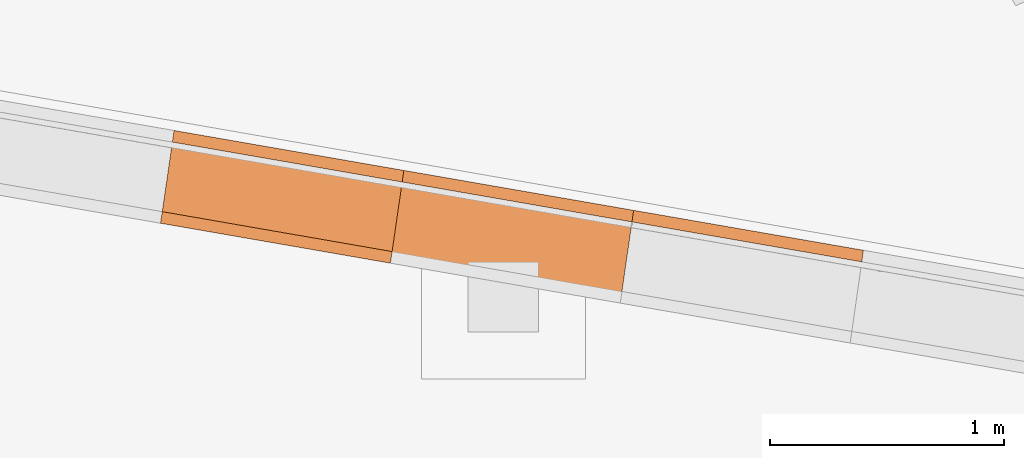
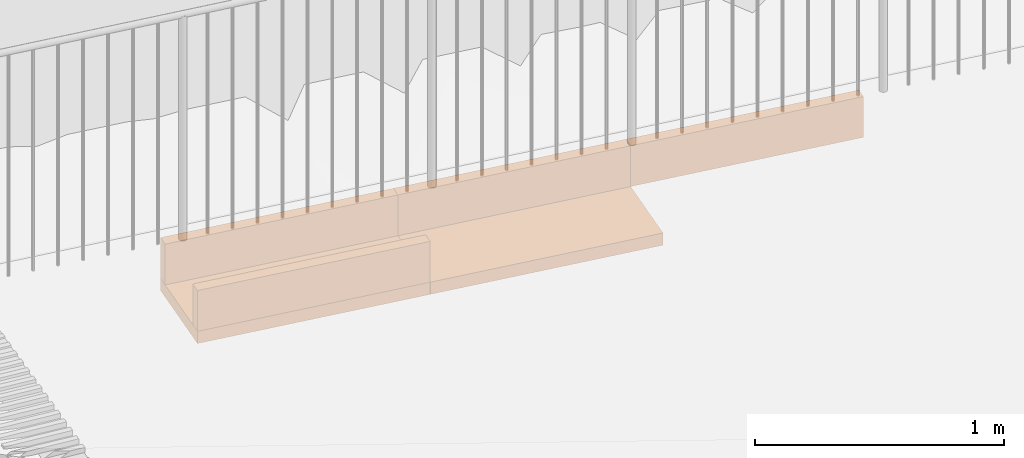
# Not in any storey, part 23 of 45: 6 proxies.
"""IFC4 model written with IfcOpenShell, lengths in metres."""

from ifc_helpers import new_model, si_unit, direction, frame, origin_with_axes, place, context, subcontext, project, spatial, polygons, material, element, save


model = new_model("IFC4")

# Units and contexts
model_context = context("Model", 3, precision=1e-05, world=origin_with_axes(), true_north=direction((0.0, 1.0)))
body_context = subcontext(model_context, "Body", "Model", "MODEL_VIEW")
ifc_project = project(units=[si_unit("VOLUMEUNIT", "CUBIC_METRE"), si_unit("LENGTHUNIT", "METRE"), si_unit("AREAUNIT", "SQUARE_METRE")], contexts=[model_context])

# Site
site_placement = place(None, origin_with_axes())
site = spatial("IfcSite", under=ifc_project, at=site_placement, Name="Lares · Rua das Mercês · artigo 4771")

# Proxies
ifc_material = material(Name="Caleiras · betão", Category="concrete")
proxy_1_placement = place(site_placement, frame((0.0, 0.0, 0.0), z_axis=(0.0, 0.0, 1.0), x_axis=(1.0, -1.03767253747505e-17, 0.0)))
element("IfcBuildingElementProxy", 1, at=proxy_1_placement, inside=site, material=ifc_material, Name="Acesso · canal lateral", ObjectType="Acesso · canal lateral", PredefinedType="USERDEFINED", context=body_context, shape_type="Tessellation", body=[
    polygons([(50.7869366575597, 10.7614061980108, 15.221), (50.8445409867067, 11.1572366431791, 15.221), (51.8255393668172, 10.9868287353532, 15.222), (51.7679347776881, 10.590998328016, 15.222), (50.7869366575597, 10.7614061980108, 15.281), (50.8445409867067, 11.1572366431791, 15.281), (51.8255393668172, 10.9868287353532, 15.282), (51.7679347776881, 10.590998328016, 15.282)], [[[4, 3, 2, 1]], [[5, 6, 7, 8]], [[1, 2, 6, 5]], [[2, 3, 7, 6]], [[3, 4, 8, 7]], [[4, 1, 5, 8]]]),
])
proxy_2_placement = place(site_placement, frame((0.0, 0.0, 0.0), z_axis=(0.0, 0.0, 1.0), x_axis=(1.0, -1.03767253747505e-17, 0.0)))
element("IfcBuildingElementProxy", 2, at=proxy_2_placement, inside=site, material=ifc_material, Name="Acesso · canal lateral", ObjectType="Acesso · canal lateral", PredefinedType="USERDEFINED", context=body_context, shape_type="Tessellation", body=[
    polygons([(50.7869366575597, 10.7614061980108, 15.281), (50.7941371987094, 10.8108850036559, 15.281), (51.7751353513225, 10.6404771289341, 15.282), (51.7679347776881, 10.590998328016, 15.282), (50.7869366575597, 10.7614061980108, 15.481), (50.7941371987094, 10.8108850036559, 15.481), (51.7751353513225, 10.6404771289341, 15.482), (51.7679347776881, 10.590998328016, 15.482)], [[[4, 3, 2, 1]], [[5, 6, 7, 8]], [[1, 2, 6, 5]], [[2, 3, 7, 6]], [[3, 4, 8, 7]], [[4, 1, 5, 8]]]),
])
proxy_3_placement = place(site_placement, frame((0.0, 0.0, 0.0), z_axis=(0.0, 0.0, 1.0), x_axis=(1.0, -1.03767253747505e-17, 0.0)))
element("IfcBuildingElementProxy", 3, at=proxy_3_placement, inside=site, material=ifc_material, Name="Acesso · canal lateral", ObjectType="Acesso · canal lateral", PredefinedType="USERDEFINED", context=body_context, shape_type="Tessellation", body=[
    polygons([(50.8373404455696, 11.1077578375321, 15.281), (50.8445409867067, 11.1572366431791, 15.281), (51.8255393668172, 10.9868287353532, 15.282), (51.8183387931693, 10.9373499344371, 15.282), (50.8373404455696, 11.1077578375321, 15.481), (50.8445409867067, 11.1572366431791, 15.481), (51.8255393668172, 10.9868287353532, 15.482), (51.8183387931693, 10.9373499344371, 15.482)], [[[4, 3, 2, 1]], [[5, 6, 7, 8]], [[1, 2, 6, 5]], [[2, 3, 7, 6]], [[3, 4, 8, 7]], [[4, 1, 5, 8]]]),
])
proxy_4_placement = place(site_placement, frame((0.0, 0.0, 0.0), z_axis=(0.0, 0.0, 1.0), x_axis=(1.0, -1.03767253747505e-17, 0.0)))
element("IfcBuildingElementProxy", 4, at=proxy_4_placement, inside=site, material=ifc_material, Name="Acesso · canal lateral", ObjectType="Acesso · canal lateral", PredefinedType="USERDEFINED", context=body_context, shape_type="Tessellation", body=[
    polygons([(51.7681638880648, 10.5909651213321, 15.222), (51.8253102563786, 10.9868619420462, 15.222), (52.8063153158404, 10.8164533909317, 15.223), (52.7491686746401, 10.4205566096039, 15.223), (51.7681638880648, 10.5909651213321, 15.282), (51.8253102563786, 10.9868619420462, 15.282), (52.8063153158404, 10.8164533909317, 15.283), (52.7491686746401, 10.4205566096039, 15.283)], [[[4, 3, 2, 1]], [[5, 6, 7, 8]], [[1, 2, 6, 5]], [[2, 3, 7, 6]], [[3, 4, 8, 7]], [[4, 1, 5, 8]]]),
])
proxy_5_placement = place(site_placement, frame((0.0, 0.0, 0.0), z_axis=(0.0, 0.0, 1.0), x_axis=(1.0, -1.03767253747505e-17, 0.0)))
element("IfcBuildingElementProxy", 5, at=proxy_5_placement, inside=site, material=ifc_material, Name="Acesso · canal lateral", ObjectType="Acesso · canal lateral", PredefinedType="USERDEFINED", context=body_context, shape_type="Tessellation", body=[
    polygons([(51.8181669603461, 10.937374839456, 15.282), (51.8253102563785, 10.9868619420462, 15.282), (52.8063153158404, 10.8164533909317, 15.283), (52.799171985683, 10.7669662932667, 15.283), (51.8181669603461, 10.937374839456, 15.482), (51.8253102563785, 10.9868619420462, 15.482), (52.8063153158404, 10.8164533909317, 15.483), (52.799171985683, 10.7669662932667, 15.483)], [[[4, 3, 2, 1]], [[5, 6, 7, 8]], [[1, 2, 6, 5]], [[2, 3, 7, 6]], [[3, 4, 8, 7]], [[4, 1, 5, 8]]]),
])
proxy_6_placement = place(site_placement, frame((0.0, 0.0, 0.0), z_axis=(0.0, 0.0, 1.0), x_axis=(1.0, -1.03767253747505e-17, 0.0)))
element("IfcBuildingElementProxy", 6, at=proxy_6_placement, inside=site, material=ifc_material, Name="Acesso · canal lateral", ObjectType="Acesso · canal lateral", PredefinedType="USERDEFINED", context=body_context, shape_type="Tessellation", body=[
    polygons([(52.7989959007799, 10.7669916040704, 15.283), (52.8060805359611, 10.8164871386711, 15.283), (53.7870925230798, 10.6460779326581, 15.284), (53.7800078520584, 10.5965824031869, 15.284), (52.7989959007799, 10.7669916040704, 15.483), (52.8060805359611, 10.8164871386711, 15.483), (53.7870925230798, 10.6460779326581, 15.484), (53.7800078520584, 10.5965824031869, 15.484)], [[[4, 3, 2, 1]], [[5, 6, 7, 8]], [[1, 2, 6, 5]], [[2, 3, 7, 6]], [[3, 4, 8, 7]], [[4, 1, 5, 8]]]),
])

save(model, "model.ifc")
